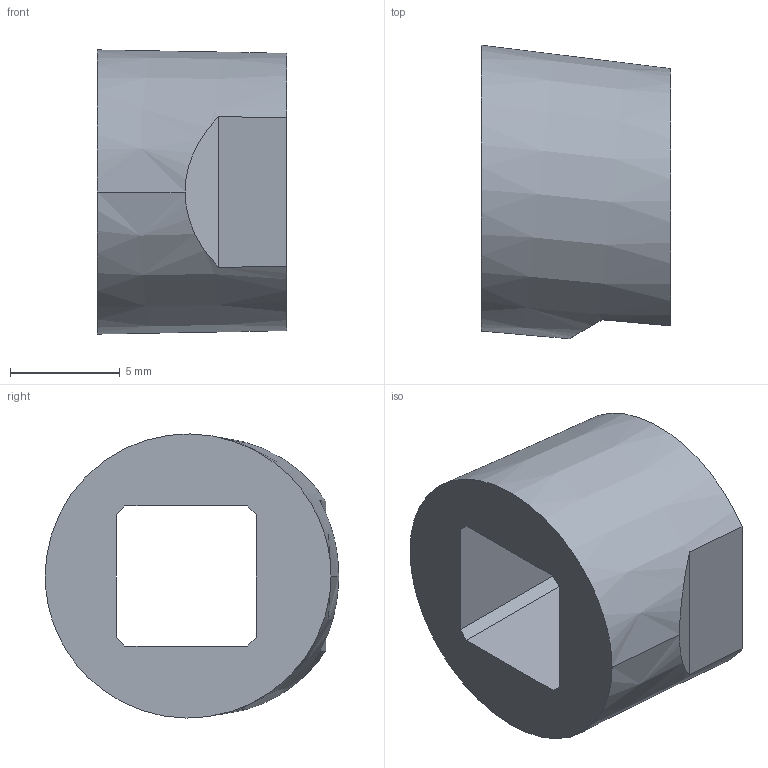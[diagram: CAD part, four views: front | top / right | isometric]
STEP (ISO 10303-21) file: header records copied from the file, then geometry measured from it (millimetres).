
FILE_DESCRIPTION (( 'STEP AP214' ), '1' );
FILE_NAME ('B1-shoulder-Standard.step', '2023-08-03T13:47:56', ( '' ), ( '' ), 'SwSTEP 2.0', 'SolidWorks 2020', '' );
FILE_SCHEMA (( 'AUTOMOTIVE_DESIGN' ));
Length unit declared in the file: millimetre
Products named in the file (1): B1-shoulder-Standard
Bounding box: 8.63 x 13.4 x 12.97 mm (x, y, z)
Volume: 753 mm3; surface area: 736.1 mm2
Topology: 1 solids, 1 shells, 14 faces, 36 edges, 24 vertices
Faces by surface type: plane 12, cone 2
Entity records: 460 total; most frequent: CARTESIAN_POINT 99, ORIENTED_EDGE 72, DIRECTION 58, EDGE_CURVE 36, VECTOR 28, LINE 28, VERTEX_POINT 24, EDGE_LOOP 16
